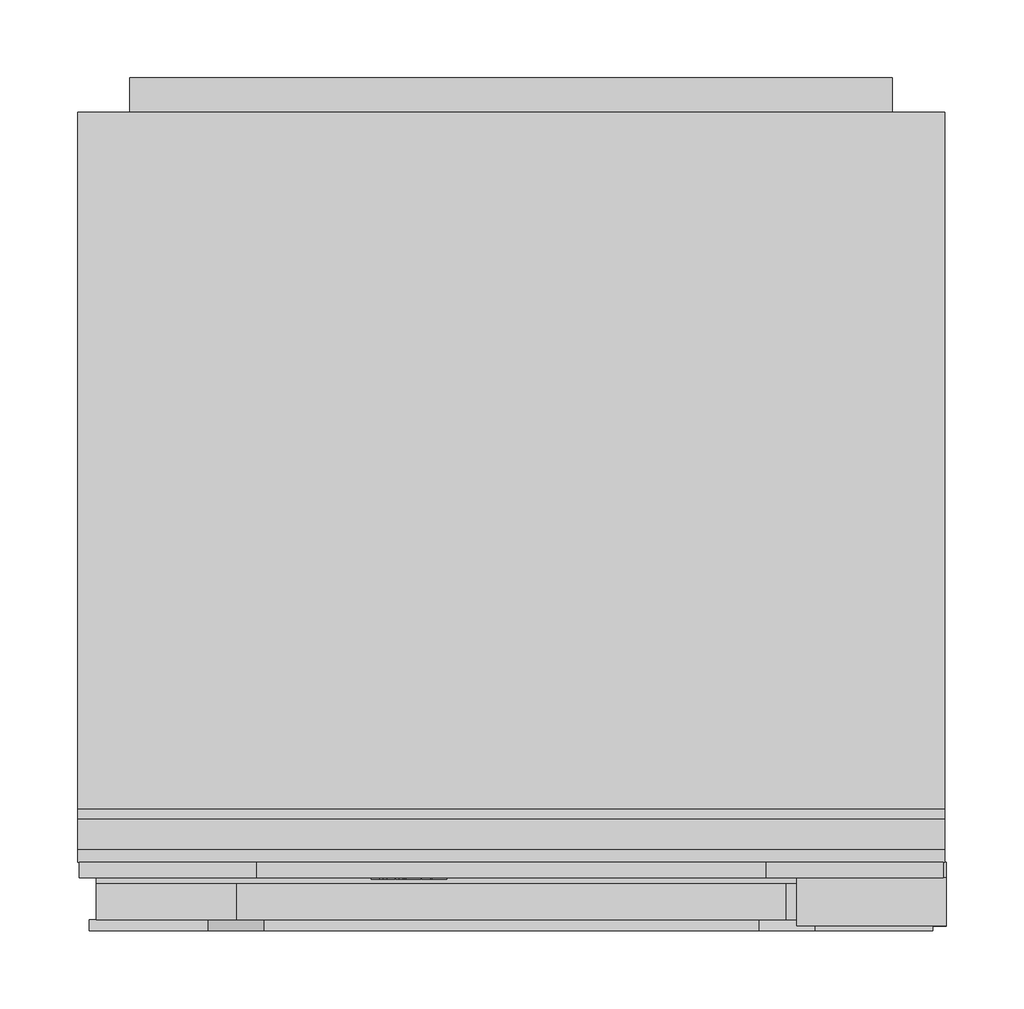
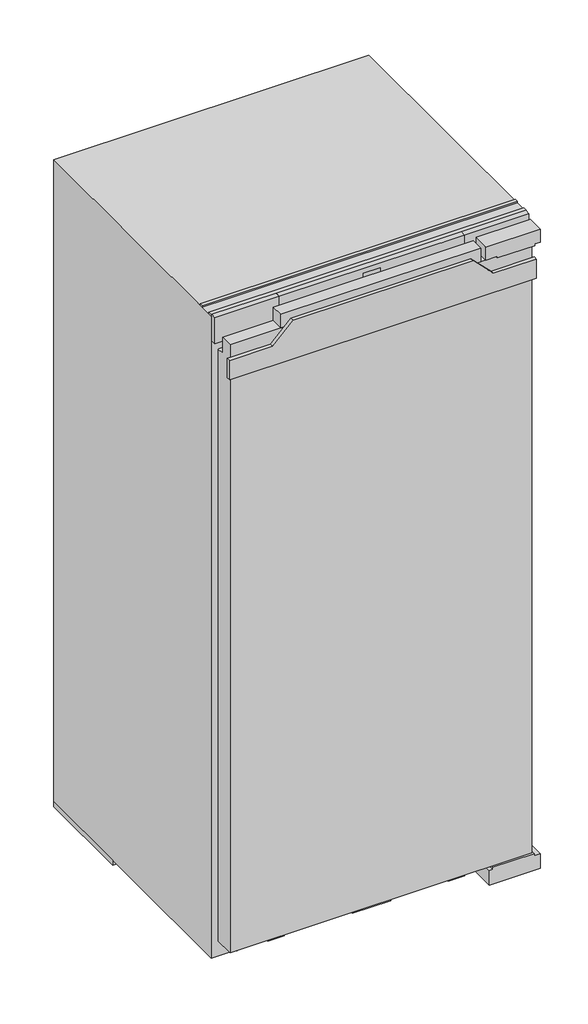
# Not in any storey: 1 proxy.
"""IFC4 building model written with IfcOpenShell, lengths in millimetres."""

from ifc_helpers import new_model, si_unit, origin, place, context, project, spatial, transform, mapped, element, save
from components import specialty_equipment_4f898c9b

model = new_model("IFC4")

# Units and contexts
model_context = context("Model", 3, world=origin())
ifc_project = project(units=[si_unit("LENGTHUNIT", "METRE", prefix="MILLI")], contexts=[model_context])

# Site, building
site = spatial("IfcSite", under=ifc_project)
building = spatial("IfcBuilding", under=site)

# Proxy
placement = place(None, origin())
specialty_equipment_shape = specialty_equipment_4f898c9b(model_context)
element("IfcBuildingElementProxy", 1, Name="11641120_EU1_K7343D : 36734300_EU1_11641120_K7343D", ObjectType="11641120_EU1_K7343D : 36734300_EU1_11641120_K7343D", at=placement, inside=building, context=model_context, shape_type="MappedRepresentation", body=[
    mapped(specialty_equipment_shape, transform((0.0, 0.0, 0.0), x_axis=(1.0, 0.0, 0.0), y_axis=(0.0, 1.0, 0.0), z_axis=(0.0, 0.0, 1.0))),
])

save(model, "model.ifc")
